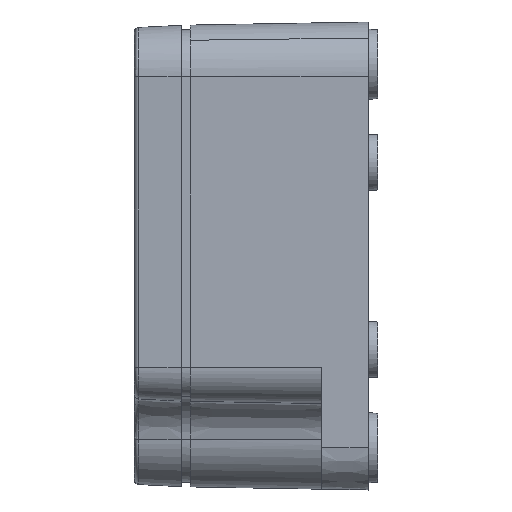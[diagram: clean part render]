
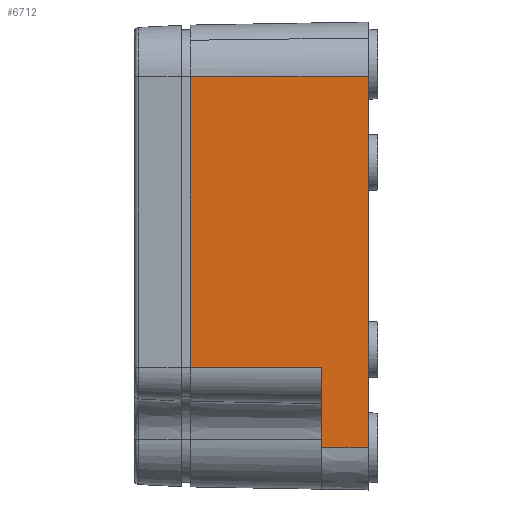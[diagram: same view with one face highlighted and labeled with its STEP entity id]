
A CAD part, left-side view. The second image highlights one B-rep face of the part: STEP entity #6712.
In plain terms, the highlighted planar face has unit normal (-1, 0.018, 0).
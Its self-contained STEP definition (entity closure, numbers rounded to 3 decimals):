
#131 = VECTOR ( 'NONE', #25768, 1000. ) ;
#359 = ORIENTED_EDGE ( 'NONE', *, *, #19449, .T. ) ;
#605 = ORIENTED_EDGE ( 'NONE', *, *, #8402, .F. ) ;
#1681 = LINE ( 'NONE', #10253, #37904 ) ;
#3094 = FACE_OUTER_BOUND ( 'NONE', #10868, .T. ) ;
#4402 = EDGE_CURVE ( 'NONE', #32165, #32198, #9893, .T. ) ;
#6271 = EDGE_CURVE ( 'NONE', #32082, #36749, #33651, .T. ) ;
#6712 = ADVANCED_FACE ( 'NONE', ( #3094 ), #15245, .T. ) ;
#8402 = EDGE_CURVE ( 'NONE', #24420, #32165, #1681, .T. ) ;
#8864 = CARTESIAN_POINT ( 'NONE',  ( -39.651, 20., 20.5 ) ) ;
#8906 = DIRECTION ( 'NONE',  ( -0.017, -1., 0. ) ) ;
#9272 = DIRECTION ( 'NONE',  ( -0.017, -1., 0. ) ) ;
#9555 = CARTESIAN_POINT ( 'NONE',  ( -39.913, 5., 20.5 ) ) ;
#9893 = LINE ( 'NONE', #30844, #19574 ) ;
#10044 = CARTESIAN_POINT ( 'NONE',  ( -39.668, 19., 20.5 ) ) ;
#10165 = ORIENTED_EDGE ( 'NONE', *, *, #31643, .T. ) ;
#10253 = CARTESIAN_POINT ( 'NONE',  ( -40., 0., 20.5 ) ) ;
#10868 = EDGE_LOOP ( 'NONE', ( #17266, #605, #31278, #359, #12099, #10165 ) ) ;
#11909 = CARTESIAN_POINT ( 'NONE',  ( -39.651, 20., -11.9 ) ) ;
#12099 = ORIENTED_EDGE ( 'NONE', *, *, #6271, .T. ) ;
#12409 = VECTOR ( 'NONE', #22194, 1000. ) ;
#14050 = VERTEX_POINT ( 'NONE', #26899 ) ;
#14436 = CARTESIAN_POINT ( 'NONE',  ( -39.913, 5., -11.9 ) ) ;
#15245 = PLANE ( 'NONE',  #16213 ) ;
#16213 = AXIS2_PLACEMENT_3D ( 'NONE', #8864, #24418, #9272 ) ;
#17266 = ORIENTED_EDGE ( 'NONE', *, *, #4402, .F. ) ;
#17897 = VECTOR ( 'NONE', #24518, 1000. ) ;
#18706 = VECTOR ( 'NONE', #8906, 1000. ) ;
#19446 = CARTESIAN_POINT ( 'NONE',  ( -40., 0., -20.5 ) ) ;
#19449 = EDGE_CURVE ( 'NONE', #14050, #32082, #37369, .T. ) ;
#19574 = VECTOR ( 'NONE', #37019, 1000. ) ;
#21571 = CARTESIAN_POINT ( 'NONE',  ( -40., 0., 19.152 ) ) ;
#22194 = DIRECTION ( 'NONE',  ( 0., 0., -1. ) ) ;
#22367 = LINE ( 'NONE', #30983, #131 ) ;
#24418 = DIRECTION ( 'NONE',  ( -1., 0.017, 0. ) ) ;
#24420 = VERTEX_POINT ( 'NONE', #21571 ) ;
#24518 = DIRECTION ( 'NONE',  ( 0., 0., -1. ) ) ;
#24719 = LINE ( 'NONE', #9555, #17897 ) ;
#25768 = DIRECTION ( 'NONE',  ( 0.017, 1., 0. ) ) ;
#26168 = EDGE_CURVE ( 'NONE', #24420, #14050, #22367, .T. ) ;
#26899 = CARTESIAN_POINT ( 'NONE',  ( -39.668, 19., 19.152 ) ) ;
#27864 = CARTESIAN_POINT ( 'NONE',  ( -39.913, 5., -20.5 ) ) ;
#28994 = DIRECTION ( 'NONE',  ( 0., 0., -1. ) ) ;
#30844 = CARTESIAN_POINT ( 'NONE',  ( -8750.077, -499000., -20.5 ) ) ;
#30983 = CARTESIAN_POINT ( 'NONE',  ( -39.651, 20., 19.152 ) ) ;
#31278 = ORIENTED_EDGE ( 'NONE', *, *, #26168, .T. ) ;
#31643 = EDGE_CURVE ( 'NONE', #36749, #32198, #24719, .T. ) ;
#32082 = VERTEX_POINT ( 'NONE', #33658 ) ;
#32165 = VERTEX_POINT ( 'NONE', #19446 ) ;
#32198 = VERTEX_POINT ( 'NONE', #27864 ) ;
#33651 = LINE ( 'NONE', #11909, #18706 ) ;
#33658 = CARTESIAN_POINT ( 'NONE',  ( -39.668, 19., -11.9 ) ) ;
#36749 = VERTEX_POINT ( 'NONE', #14436 ) ;
#37019 = DIRECTION ( 'NONE',  ( 0.017, 1., 0. ) ) ;
#37369 = LINE ( 'NONE', #10044, #12409 ) ;
#37904 = VECTOR ( 'NONE', #28994, 1000. ) ;
